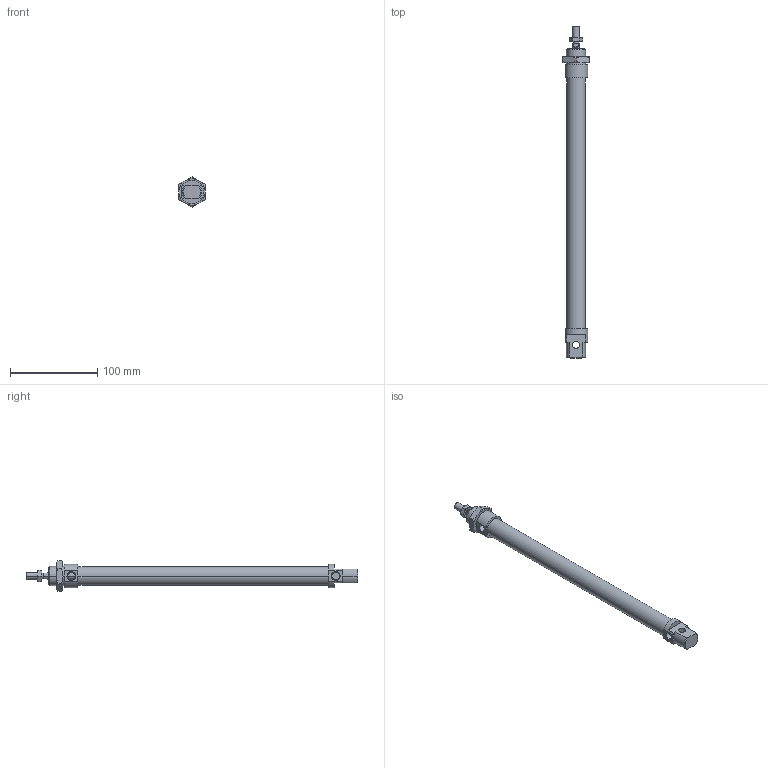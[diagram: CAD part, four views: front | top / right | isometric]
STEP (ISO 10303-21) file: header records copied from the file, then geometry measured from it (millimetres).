
FILE_DESCRIPTION((''),'2;1');
FILE_NAME('I:\DOC-EDP\Lib-3d\1200\CILINDRI\1280\1280_20_0250.stp','2003-04-07T16:11:12',('maffial1'),(''),'Autodesk Inventor (R) 6.0','Autodesk Inventor (R) 6.0','');
FILE_SCHEMA(('AUTOMOTIVE_DESIGN { 1 0 10303 214 1 1 1 1 }'));
Length unit declared in the file: millimetre
Products named in the file (5): 1280_20_0250; S1280_20_250; 1200_20_05; 1200_20_06; C1280_20_250
Assembly tree (4 placements, depth 2):
  1280_20_0250
    S1280_20_250
    1200_20_05
    1200_20_06
    C1280_20_250
Bounding box: 30 x 380 x 34.64 mm (x, y, z)
Volume: 132604 mm3; surface area: 43748.3 mm2
Topology: 4 solids, 4 shells, 124 faces, 281 edges, 170 vertices
Faces by surface type: plane 41, cone 40, cylinder 22, bspline 21
Entity records: 3816 total; most frequent: CARTESIAN_POINT 1039, DIRECTION 573, ORIENTED_EDGE 562, EDGE_CURVE 281, AXIS2_PLACEMENT_3D 236, VERTEX_POINT 170, EDGE_LOOP 137, FACE_OUTER_BOUND 124
